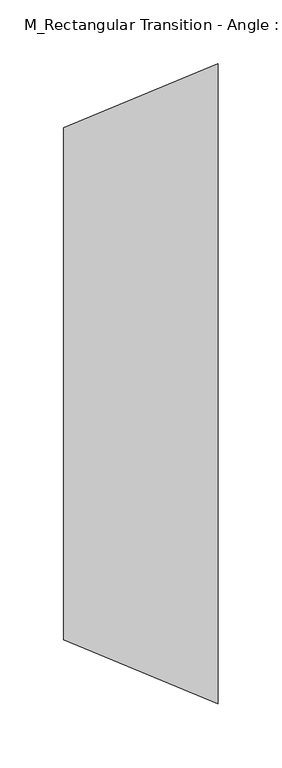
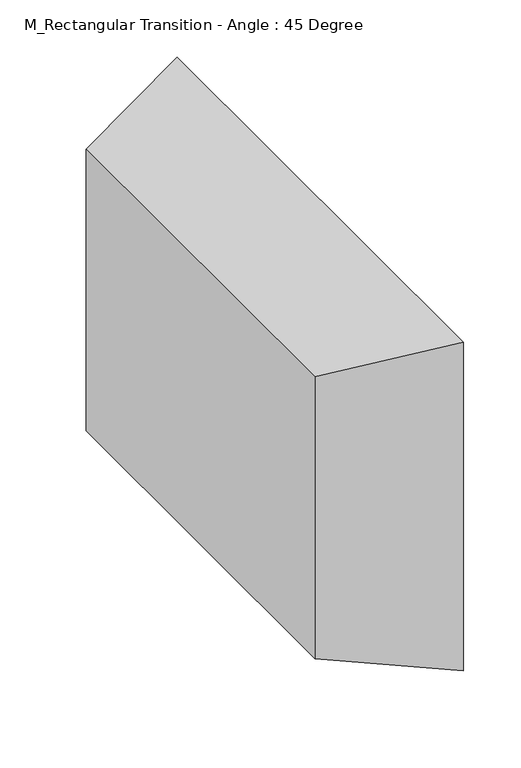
"""IFC4 building model written with IfcOpenShell, lengths in millimetres: duct fitting geometry, M_Rectangular Transition - Angle : 45 Degree."""

import ifcopenshell
import ifcopenshell.guid

model = None  # the IFC model being written
_history = None  # IfcOwnerHistory: only IFC2X3 demands one
_inside = {}  # id of a spatial element -> (the spatial element, [elements in it])
_under = {}  # id of a project, library or spatial element -> (it, [spatial elements below it])
_declared = {}  # id of a project -> (the project, [libraries it declares])
_typed = {}  # id of a type object -> (the type object, [elements of that type])
_made_of = {}  # id of a material, layer set ... -> (it, [elements and type objects made of it])


def new_model(schema):
    """Start an empty IFC model of exactly this schema.

    Asked for "IFC4X3", IfcOpenShell would pick the latest addendum, in which some entities
    have other attributes; the version numbers below select the first issue.
    IFC2X3 requires an IfcOwnerHistory on every rooted entity: one is made here for all.
    """
    global model, _history
    if schema == "IFC4X3":
        model = ifcopenshell.file(schema_version=(4, 3, 0, 0))
    else:
        model = ifcopenshell.file(schema=schema)
    _inside.clear()
    _under.clear()
    _declared.clear()
    _typed.clear()
    _made_of.clear()
    _history = None
    if model.schema == "IFC2X3":
        org = make("IfcOrganization", Name="unknown")
        user = make(
            "IfcPersonAndOrganization",
            ThePerson=make("IfcPerson", FamilyName="unknown"),
            TheOrganization=org,
        )
        app = make(
            "IfcApplication",
            ApplicationDeveloper=org,
            Version="unknown",
            ApplicationFullName="unknown",
            ApplicationIdentifier="unknown",
        )
        _history = make(
            "IfcOwnerHistory",
            OwningUser=user,
            OwningApplication=app,
            ChangeAction="ADDED",
            CreationDate=0,
        )
    return model


def make(cls, **values):
    """One entity of the class cls with the attributes given. An attribute that is None is left unset."""
    return model.create_entity(
        cls, **{name: value for name, value in values.items() if value is not None}
    )


def rooted(cls, **values):
    """An entity with a GlobalId (a new one), such as an element, a storey or a relation."""
    return make(cls, GlobalId=ifcopenshell.guid.new(), OwnerHistory=_history, **values)


def si_unit(unit_type, name, prefix=None):
    """IfcSIUnit, for example si_unit("LENGTHUNIT", "METRE", prefix="MILLI")."""
    return make("IfcSIUnit", UnitType=unit_type, Prefix=prefix, Name=name)


def assignment(units):
    """IfcUnitAssignment: the units of a project."""
    return None if units is None else make("IfcUnitAssignment", Units=units)


def point(xyz):
    """IfcCartesianPoint."""
    return None if xyz is None else make("IfcCartesianPoint", Coordinates=xyz)


def direction(xyz):
    """IfcDirection."""
    return None if xyz is None else make("IfcDirection", DirectionRatios=xyz)


def frame(location, z_axis=None, x_axis=None):
    """IfcAxis2Placement3D, a coordinate frame: its origin and axes. An axis left out is left unset."""
    return make(
        "IfcAxis2Placement3D",
        Location=point(location),
        Axis=direction(z_axis),
        RefDirection=direction(x_axis),
    )


def origin():
    """The frame at (0, 0, 0) with its axes left unset."""
    return frame((0.0, 0.0, 0.0))


def place(relative_to, where):
    """IfcLocalPlacement: puts the frame where relative to a parent placement (None: the world)."""
    return make(
        "IfcLocalPlacement", PlacementRelTo=relative_to, RelativePlacement=where
    )


def context(
    kind, dimensions, precision=None, world=None, true_north=None, identifier=None
):
    """IfcGeometricRepresentationContext, for example the 3D "Model" context."""
    return make(
        "IfcGeometricRepresentationContext",
        ContextIdentifier=identifier,
        ContextType=kind,
        CoordinateSpaceDimension=dimensions,
        Precision=precision,
        WorldCoordinateSystem=world,
        TrueNorth=true_north,
    )


def project(units=None, contexts=None):
    """IfcProject with its units and contexts."""
    return rooted(
        "IfcProject",
        Name="project",
        RepresentationContexts=contexts,
        UnitsInContext=assignment(units),
    )


def spatial(cls, under=None, at=None, **own):
    """A site, building, storey or space (cls), placed at a placement, below another one or the project."""
    s = rooted(cls, ObjectPlacement=at, **own)
    if under is not None:
        _under.setdefault(under.id(), (under, []))[1].append(s)
    return s


def faces_of(points, faces, orient=None, outer=None):
    """IfcFace entities. A face is a list of loops; a loop is a list of indices into points, from 0.

    orient and outer hold one flag for each loop. By default every Orientation is true, the
    first loop of a face is its IfcFaceOuterBound and the others are IfcFaceBound.
    """
    made = []
    for i, loops in enumerate(faces):
        bounds = []
        for j, loop in enumerate(loops):
            is_outer = j == 0 if outer is None else outer[i][j]
            bounds.append(
                make(
                    "IfcFaceOuterBound" if is_outer else "IfcFaceBound",
                    Bound=make("IfcPolyLoop", Polygon=[points[k] for k in loop]),
                    Orientation=True if orient is None else orient[i][j],
                )
            )
        made.append(make("IfcFace", Bounds=bounds))
    return made


def faceted_brep(points, faces, orient=None, outer=None, voids=None):
    """IfcFacetedBrep: a solid bounded by flat faces; with voids (closed shells), ...WithVoids."""
    shared = [point(p) for p in points]
    hull = make("IfcClosedShell", CfsFaces=faces_of(shared, faces, orient, outer))
    if voids is None:
        return make("IfcFacetedBrep", Outer=hull)
    return make(
        "IfcFacetedBrepWithVoids",
        Outer=hull,
        Voids=[
            make(cls, CfsFaces=faces_of(shared, fs, o, b)) for cls, fs, o, b in voids
        ],
    )


def shape(context_of_items, identifier, shape_type, items):
    """IfcShapeRepresentation: the items that make up one representation, for example the "Body"."""
    return make(
        "IfcShapeRepresentation",
        ContextOfItems=context_of_items,
        RepresentationIdentifier=identifier,
        RepresentationType=shape_type,
        Items=items,
    )


def source(mapping_origin, context_of_items, identifier, shape_type, items):
    """IfcRepresentationMap: a shape defined once, which mapped items show again and again."""
    return make(
        "IfcRepresentationMap",
        MappingOrigin=mapping_origin,
        MappedRepresentation=shape(context_of_items, identifier, shape_type, items),
    )


def transform(
    local_origin,
    x_axis=None,
    y_axis=None,
    z_axis=None,
    scale=None,
    scale2=None,
    scale3=None,
    uniform=True,
):
    """IfcCartesianTransformationOperator3D, or its non-uniform kind. x_axis, y_axis, z_axis: its Axis1, 2, 3."""
    if uniform:
        return make(
            "IfcCartesianTransformationOperator3D",
            Axis1=direction(x_axis),
            Axis2=direction(y_axis),
            LocalOrigin=point(local_origin),
            Scale=scale,
            Axis3=direction(z_axis),
        )
    return make(
        "IfcCartesianTransformationOperator3DnonUniform",
        Axis1=direction(x_axis),
        Axis2=direction(y_axis),
        LocalOrigin=point(local_origin),
        Scale=scale,
        Axis3=direction(z_axis),
        Scale2=scale2,
        Scale3=scale3,
    )


def mapped(mapping_source, mapping_target):
    """IfcMappedItem: shows the shape of a source again, moved by a transform."""
    return make(
        "IfcMappedItem", MappingSource=mapping_source, MappingTarget=mapping_target
    )


def made_of(thing, what):
    """Note that an element or type object is made of a material, layer set ...; save() writes the relation."""
    if what is not None:
        _made_of.setdefault(what.id(), (what, []))[1].append(thing)
    return thing


def element(
    cls,
    number,
    at=None,
    inside=None,
    cuts=None,
    type_object=None,
    material=None,
    context=None,
    identifier="Body",
    shape_type=None,
    held_by="IfcProductDefinitionShape",
    body=None,
    shapes=None,
    **own,
):
    """One element of the class cls, such as IfcWall. Its Tag is "e" and its number.

    at: its placement. inside: the storey or other place that contains it. cuts: it is an
    opening in that element (IfcRelVoidsElement). A single representation is given by context,
    identifier, shape_type and body (its items); several are given by shapes. held_by: the class
    of the entity that holds the representations. save() writes the other relations.
    """
    e = rooted(cls, Tag="e%d" % number, ObjectPlacement=at, **own)
    if body is not None:
        shapes = [shape(context, identifier, shape_type, body)]
    if shapes is not None:
        e.Representation = make(held_by, Representations=shapes)
    if inside is not None:
        _inside.setdefault(inside.id(), (inside, []))[1].append(e)
    if cuts is not None:
        rooted(
            "IfcRelVoidsElement", RelatingBuildingElement=cuts, RelatedOpeningElement=e
        )
    if type_object is not None:
        _typed.setdefault(type_object.id(), (type_object, []))[1].append(e)
    return made_of(e, material)


def aggregate(whole, parts):
    """IfcRelAggregates: a whole, such as a stair, and the parts it consists of."""
    return rooted("IfcRelAggregates", RelatingObject=whole, RelatedObjects=parts)


def save(model, path):
    """Write the relations noted so far, then the file.

    IfcRelAggregates (storeys below a building ...), IfcRelContainedInSpatialStructure (elements
    in a storey), IfcRelDefinesByType, IfcRelAssociatesMaterial and IfcRelDeclares: one each for
    every whole, place, type object, material and project.
    """
    for whole, parts in _under.values():
        aggregate(whole, parts)
    for where, things in _inside.values():
        rooted(
            "IfcRelContainedInSpatialStructure",
            RelatedElements=things,
            RelatingStructure=where,
        )
    for kind, things in _typed.values():
        rooted("IfcRelDefinesByType", RelatedObjects=things, RelatingType=kind)
    for what, things in _made_of.values():
        rooted("IfcRelAssociatesMaterial", RelatedObjects=things, RelatingMaterial=what)
    for by, libraries in _declared.values():
        rooted("IfcRelDeclares", RelatingContext=by, RelatedDefinitions=libraries)
    model.write(path)


def m_rectangular_transition_angle_45_degree_57c9f929(model_context):
    return source(origin(), model_context, "Body", "Brep", [
        faceted_brep([(120.7106781, -250.0, 175.0), (120.7106781, -250.0, -175.0), (120.7106781, 250.0, -175.0), (120.7106781, 250.0, 175.0), (0.0, -200.0, 150.0), (0.0, 200.0, 150.0), (0.0, 200.0, -150.0), (0.0, -200.0, -150.0)], [[[0, 1, 2, 3]], [[4, 5, 6, 7]], [[4, 7, 1, 0]], [[7, 6, 2, 1]], [[6, 5, 3, 2]], [[5, 4, 0, 3]]]),
    ])


if __name__ == "__main__":
    model = new_model("IFC4")
    model_context = context("Model", 3, world=origin())
    ifc_project = project(units=[si_unit("LENGTHUNIT", "METRE", prefix="MILLI")], contexts=[model_context])
    site = spatial("IfcSite", under=ifc_project)
    building = spatial("IfcBuilding", under=site)
    placement = place(None, origin())
    m_rectangular_transition_angle_45_degree_shape = m_rectangular_transition_angle_45_degree_57c9f929(model_context)
    element("IfcDuctFitting", 1, ObjectType="M_Rectangular Transition - Angle : 45 Degree", at=placement, inside=building, context=model_context, shape_type="MappedRepresentation", body=[
        mapped(m_rectangular_transition_angle_45_degree_shape, transform((0.0, 0.0, 0.0), x_axis=(1.0, 0.0, 0.0), y_axis=(0.0, 1.0, 0.0), z_axis=(0.0, 0.0, 1.0))),
    ])
    save(model, "model.ifc")
